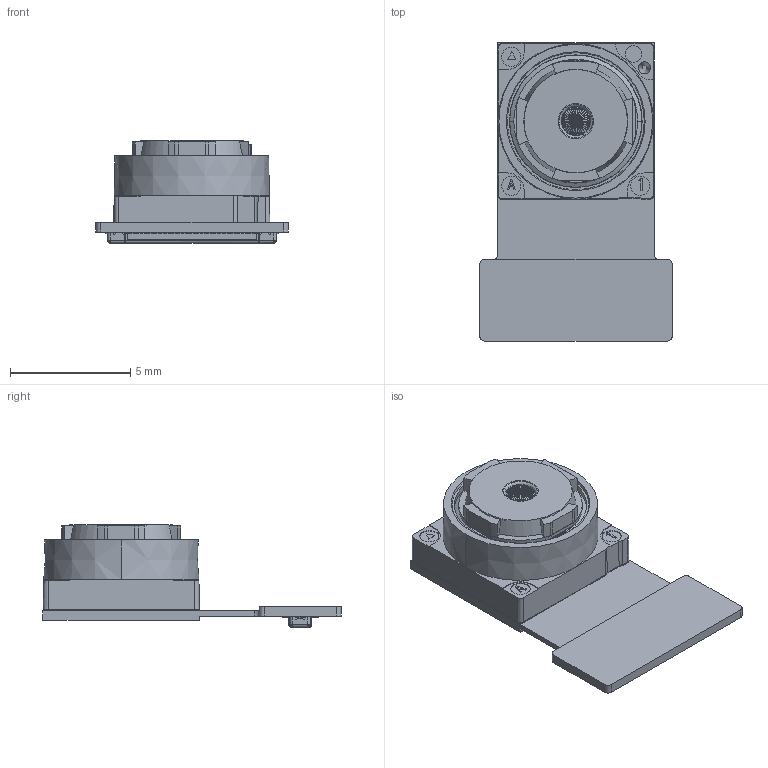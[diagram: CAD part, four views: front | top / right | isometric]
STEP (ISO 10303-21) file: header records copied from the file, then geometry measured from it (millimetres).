
FILE_DESCRIPTION (( 'STEP AP214' ), '1' );
FILE_NAME ('SHWX97_20230911.STEP', '2023-09-11T08:28:28', ( 'user' ), ( 'china' ), 'SwSTEP 2.0', 'SolidWorks 2010', '' );
FILE_SCHEMA (( 'AUTOMOTIVE_DESIGN' ));
Length unit declared in the file: millimetre
Products named in the file (5): HOLDER; 40145A1; FPC; BM28B0.6-30DP; SHWX97_20230911
Assembly tree (4 placements, depth 2):
  SHWX97_20230911
    BM28B0.6-30DP
    FPC
    HOLDER
    40145A1
Bounding box: 8 x 12.4 x 4.26 mm (x, y, z)
Volume: 113.4 mm3; surface area: 503.4 mm2
Topology: 4 solids, 4 shells, 904 faces, 2264 edges, 1381 vertices
Faces by surface type: plane 433, cone 256, cylinder 179, bspline 32, torus 4
Entity records: 35571 total; most frequent: CARTESIAN_POINT 9326, DIRECTION 4561, ORIENTED_EDGE 4512, EDGE_CURVE 2256, AXIS2_PLACEMENT_3D 1522, LINE 1517, VECTOR 1517, VERTEX_POINT 1381
